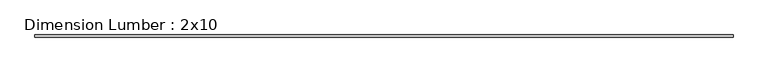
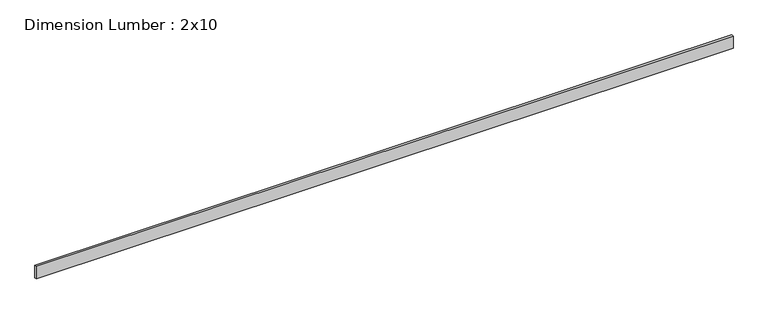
"""IFC4 building model written with IfcOpenShell, lengths in millimetres: beam geometry, Dimension Lumber : 2x10."""

from ifc_helpers import new_model, si_unit, frame, origin, place, context, project, spatial, polyline, outline, extrude, source, transform, mapped, element, save


def dimension_lumber_2x10_b767232e(model_context):
    return source(origin(), model_context, "Body", "SweptSolid", [
        extrude(outline(polyline([(8782.0362128, 19.05), (8782.0362128, -19.05), (-3812.5581501, -19.05), (-3812.5581501, 19.05), (8782.0362128, 19.05)])), frame((0.0, 0.0, -117.475), z_axis=(0.0, 0.0, 1.0), x_axis=(1.0, 0.0, 0.0)), (0.0, 0.0, 1.0), 234.95),
    ])


if __name__ == "__main__":
    model = new_model("IFC4")
    model_context = context("Model", 3, world=origin())
    ifc_project = project(units=[si_unit("LENGTHUNIT", "METRE", prefix="MILLI")], contexts=[model_context])
    site = spatial("IfcSite", under=ifc_project)
    building = spatial("IfcBuilding", under=site)
    placement = place(None, origin())
    dimension_lumber_2x10_shape = dimension_lumber_2x10_b767232e(model_context)
    element("IfcBeam", 1, ObjectType="Dimension Lumber : 2x10", at=placement, inside=building, context=model_context, shape_type="MappedRepresentation", body=[
        mapped(dimension_lumber_2x10_shape, transform((0.0, 0.0, 0.0), x_axis=(1.0, 0.0, 0.0), y_axis=(0.0, 1.0, 0.0), z_axis=(0.0, 0.0, 1.0))),
    ])
    save(model, "model.ifc")
